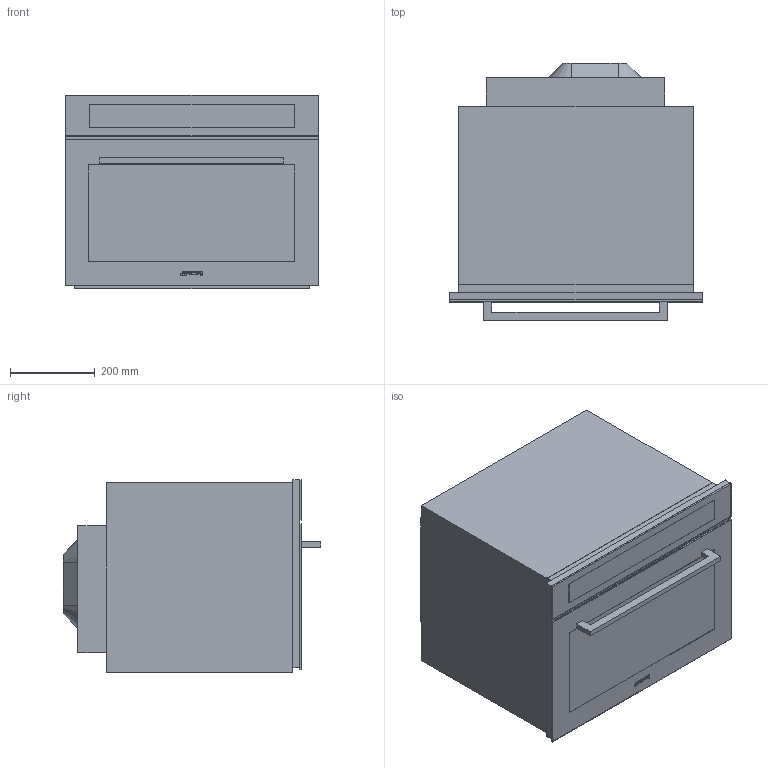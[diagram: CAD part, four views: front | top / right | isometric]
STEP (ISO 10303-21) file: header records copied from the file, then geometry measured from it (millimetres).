
FILE_DESCRIPTION(/* description */ ('Unknown'),/* implementation_level */ '2;1');
FILE_NAME(/* name */ 'SF4400MCX1',/* time_stamp */ '2025-10-20T17:17:59+02:00',/* author */ ('Unknown'),/* organization */ ('Unknown'),/* preprocessor_version */ 'ST-DEVELOPER v16.7',/* originating_system */ 'DEX',/* authorisation */ $);
FILE_SCHEMA (('AUTOMOTIVE_DESIGN {1 0 10303 214 3 1 1}'));
Length unit declared in the file: millimetre
Products named in the file (1): SF4400MCX1
Bounding box: 597 x 607.6 x 454.89 mm (x, y, z)
Volume: 123429864 mm3; surface area: 2200841.2 mm2
Topology: 2 solids, 2 shells, 150 faces, 387 edges, 256 vertices
Faces by surface type: plane 99, bspline 31, cylinder 16, cone 4
Full cylindrical faces by diameter (mm): 3.732 x2, 3.733 x3, 3.734 x1
Entity records: 7199 total; most frequent: CARTESIAN_POINT 2661, ORIENTED_EDGE 762, DIRECTION 592, EDGE_CURVE 381, LINE 272, VECTOR 272, VERTEX_POINT 256, EDGE_LOOP 175
